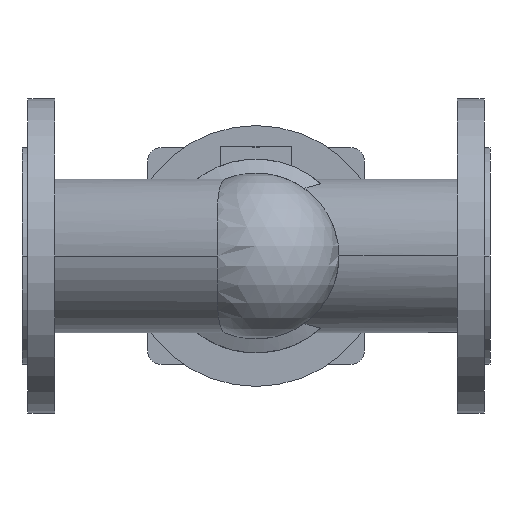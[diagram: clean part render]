
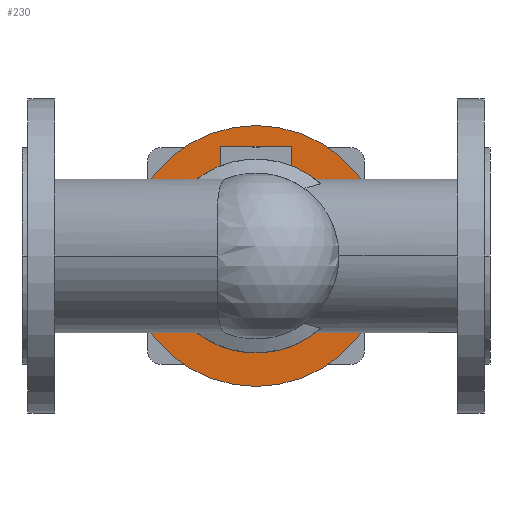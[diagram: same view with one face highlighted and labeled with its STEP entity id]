
A CAD part, front view. The second image highlights one B-rep face of the part: STEP entity #230.
In plain terms, the highlighted planar face has unit normal (0, -1, 0).
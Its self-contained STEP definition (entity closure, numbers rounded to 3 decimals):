
#230 = ADVANCED_FACE( '', ( #552, #553 ), #554, .T. );
#552 = FACE_OUTER_BOUND( '', #942, .T. );
#553 = FACE_BOUND( '', #943, .T. );
#554 = PLANE( '', #944 );
#942 = EDGE_LOOP( '', ( #1925, #1926 ) );
#943 = EDGE_LOOP( '', ( #1927, #1928 ) );
#944 = AXIS2_PLACEMENT_3D( '', #1929, #1930, #1931 );
#1925 = ORIENTED_EDGE( '', *, *, #2520, .T. );
#1926 = ORIENTED_EDGE( '', *, *, #2516, .T. );
#1927 = ORIENTED_EDGE( '', *, *, #2387, .F. );
#1928 = ORIENTED_EDGE( '', *, *, #2651, .F. );
#1929 = CARTESIAN_POINT( '', ( 89.5, 89.3, 0. ) );
#1930 = DIRECTION( '', ( 0., -1., 0. ) );
#1931 = DIRECTION( '', ( -1., 0., 0. ) );
#2387 = EDGE_CURVE( '', #2798, #2801, #2802, .T. );
#2516 = EDGE_CURVE( '', #3055, #3052, #3056, .T. );
#2520 = EDGE_CURVE( '', #3052, #3055, #3061, .T. );
#2651 = EDGE_CURVE( '', #2801, #2798, #3239, .T. );
#2798 = VERTEX_POINT( '', #3551 );
#2801 = VERTEX_POINT( '', #3555 );
#2802 = CIRCLE( '', #3556, 72.5 );
#3052 = VERTEX_POINT( '', #4061 );
#3055 = VERTEX_POINT( '', #4065 );
#3056 = CIRCLE( '', #4066, 97.5 );
#3061 = CIRCLE( '', #4072, 97.5 );
#3239 = CIRCLE( '', #4570, 72.5 );
#3551 = CARTESIAN_POINT( '', ( 102.5, 89.3, 0. ) );
#3555 = CARTESIAN_POINT( '', ( 247.5, 89.3, 0. ) );
#3556 = AXIS2_PLACEMENT_3D( '', #4880, #4881, #4882 );
#4061 = CARTESIAN_POINT( '', ( 272.5, 89.3, 0. ) );
#4065 = CARTESIAN_POINT( '', ( 77.5, 89.3, 0. ) );
#4066 = AXIS2_PLACEMENT_3D( '', #5128, #5129, #5130 );
#4072 = AXIS2_PLACEMENT_3D( '', #5138, #5139, #5140 );
#4570 = AXIS2_PLACEMENT_3D( '', #5410, #5411, #5412 );
#4880 = CARTESIAN_POINT( '', ( 175., 89.3, 0. ) );
#4881 = DIRECTION( '', ( 0., -1., 0. ) );
#4882 = DIRECTION( '', ( -1., 0., 0. ) );
#5128 = CARTESIAN_POINT( '', ( 175., 89.3, 0. ) );
#5129 = DIRECTION( '', ( 0., -1., 0. ) );
#5130 = DIRECTION( '', ( 1., 0., 0. ) );
#5138 = CARTESIAN_POINT( '', ( 175., 89.3, 0. ) );
#5139 = DIRECTION( '', ( 0., -1., 0. ) );
#5140 = DIRECTION( '', ( 1., 0., 0. ) );
#5410 = CARTESIAN_POINT( '', ( 175., 89.3, 0. ) );
#5411 = DIRECTION( '', ( 0., -1., 0. ) );
#5412 = DIRECTION( '', ( -1., 0., 0. ) );
